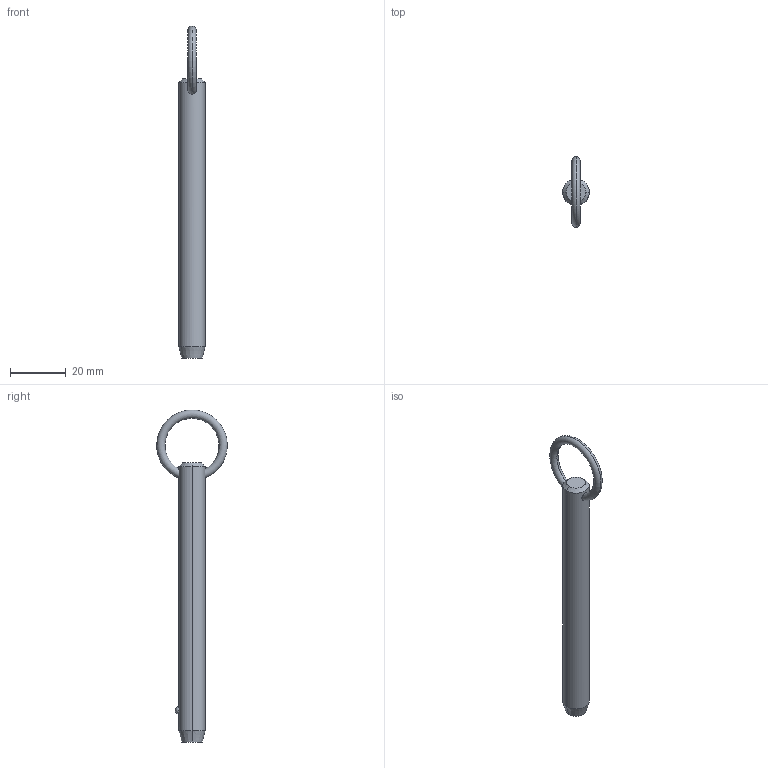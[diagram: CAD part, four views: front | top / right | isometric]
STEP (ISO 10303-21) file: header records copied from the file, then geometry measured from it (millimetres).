
FILE_DESCRIPTION (( 'STEP AP203' ), '1' );
FILE_NAME ('P1250.037-320.step', '2019-07-29T20:04:16', ( '' ), ( '' ), 'SwSTEP 2.0', 'SolidWorks 2017', '' );
FILE_SCHEMA (( 'CONFIG_CONTROL_DESIGN' ));
Length unit declared in the file: millimetre
Products named in the file (1): P1250.037-320
Bounding box: 9.52 x 25.39 x 119.4 mm (x, y, z)
Volume: 7494.2 mm3; surface area: 3643.5 mm2
Topology: 1 solids, 1 shells, 12 faces, 28 edges, 17 vertices
Faces by surface type: cone 4, torus 2, sphere 2, cylinder 2, plane 2
Entity records: 523 total; most frequent: CARTESIAN_POINT 190, DIRECTION 56, ORIENTED_EDGE 48, AXIS2_PLACEMENT_3D 25, EDGE_CURVE 24, EDGE_LOOP 15, VERTEX_POINT 15, CIRCLE 12
